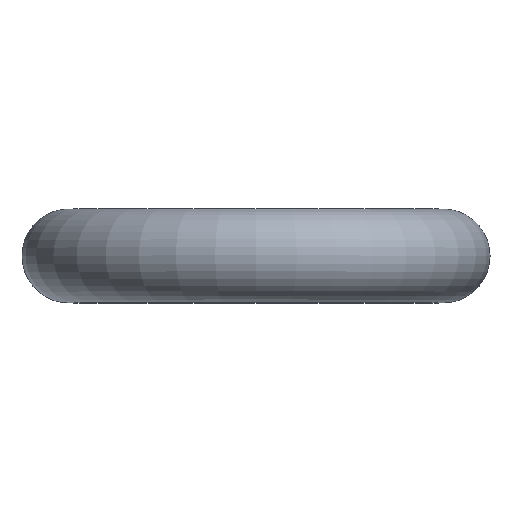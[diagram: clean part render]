
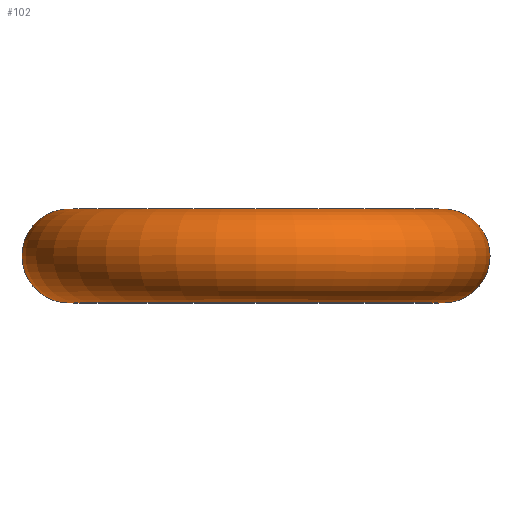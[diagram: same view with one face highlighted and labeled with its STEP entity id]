
A CAD part, top view. The second image highlights one B-rep face of the part: STEP entity #102.
In plain terms, the highlighted toroidal (fillet/blend) face has major radius 24 mm and minor radius 6 mm.
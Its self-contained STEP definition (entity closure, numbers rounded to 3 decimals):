
#24 = VERTEX_POINT('',#25);
#25 = CARTESIAN_POINT('',(-18.,0.,528.9));
#32 = CYLINDRICAL_SURFACE('',#33,6.);
#33 = AXIS2_PLACEMENT_3D('',#34,#35,#36);
#34 = CARTESIAN_POINT('',(-24.,0.,508.9));
#35 = DIRECTION('',(0.,0.,1.));
#36 = DIRECTION('',(1.,0.,-0.));
#50 = EDGE_CURVE('',#24,#24,#51,.T.);
#51 = SURFACE_CURVE('',#52,(#57,#64),.PCURVE_S1.);
#52 = CIRCLE('',#53,6.);
#53 = AXIS2_PLACEMENT_3D('',#54,#55,#56);
#54 = CARTESIAN_POINT('',(-24.,0.,528.9));
#55 = DIRECTION('',(0.,0.,1.));
#56 = DIRECTION('',(1.,0.,-0.));
#57 = PCURVE('',#32,#58);
#58 = DEFINITIONAL_REPRESENTATION('',(#59),#63);
#59 = LINE('',#60,#61);
#60 = CARTESIAN_POINT('',(0.,20.));
#61 = VECTOR('',#62,1.);
#62 = DIRECTION('',(1.,0.));
#63 = ( GEOMETRIC_REPRESENTATION_CONTEXT(2) 
PARAMETRIC_REPRESENTATION_CONTEXT() REPRESENTATION_CONTEXT('2D SPACE',''
  ) );
#64 = PCURVE('',#65,#70);
#65 = TOROIDAL_SURFACE('',#66,24.,6.);
#66 = AXIS2_PLACEMENT_3D('',#67,#68,#69);
#67 = CARTESIAN_POINT('',(0.,0.,528.9));
#68 = DIRECTION('',(0.,1.,-0.));
#69 = DIRECTION('',(-1.,0.,0.));
#70 = DEFINITIONAL_REPRESENTATION('',(#71),#74);
#71 = B_SPLINE_CURVE_WITH_KNOTS('',1,(#72,#73),.UNSPECIFIED.,.F.,.F.,(2,
    2),(0.,6.283),.PIECEWISE_BEZIER_KNOTS.);
#72 = CARTESIAN_POINT('',(0.,9.425));
#73 = CARTESIAN_POINT('',(0.,3.142));
#74 = ( GEOMETRIC_REPRESENTATION_CONTEXT(2) 
PARAMETRIC_REPRESENTATION_CONTEXT() REPRESENTATION_CONTEXT('2D SPACE',''
  ) );
#102 = ADVANCED_FACE('',(#103),#65,.T.);
#103 = FACE_BOUND('',#104,.T.);
#104 = EDGE_LOOP('',(#105,#128,#154,#155));
#105 = ORIENTED_EDGE('',*,*,#106,.T.);
#106 = EDGE_CURVE('',#24,#107,#109,.T.);
#107 = VERTEX_POINT('',#108);
#108 = CARTESIAN_POINT('',(18.,0.,528.9));
#109 = SEAM_CURVE('',#110,(#115,#121),.PCURVE_S1.);
#110 = CIRCLE('',#111,18.);
#111 = AXIS2_PLACEMENT_3D('',#112,#113,#114);
#112 = CARTESIAN_POINT('',(0.,0.,528.9)
  );
#113 = DIRECTION('',(0.,1.,-0.));
#114 = DIRECTION('',(-1.,0.,0.));
#115 = PCURVE('',#65,#116);
#116 = DEFINITIONAL_REPRESENTATION('',(#117),#120);
#117 = B_SPLINE_CURVE_WITH_KNOTS('',1,(#118,#119),.UNSPECIFIED.,.F.,.F.,
  (2,2),(0.,3.142),.PIECEWISE_BEZIER_KNOTS.);
#118 = CARTESIAN_POINT('',(0.,3.142));
#119 = CARTESIAN_POINT('',(3.142,3.142));
#120 = ( GEOMETRIC_REPRESENTATION_CONTEXT(2) 
PARAMETRIC_REPRESENTATION_CONTEXT() REPRESENTATION_CONTEXT('2D SPACE',''
  ) );
#121 = PCURVE('',#65,#122);
#122 = DEFINITIONAL_REPRESENTATION('',(#123),#127);
#123 = LINE('',#124,#125);
#124 = CARTESIAN_POINT('',(0.,9.425));
#125 = VECTOR('',#126,1.);
#126 = DIRECTION('',(1.,0.));
#127 = ( GEOMETRIC_REPRESENTATION_CONTEXT(2) 
PARAMETRIC_REPRESENTATION_CONTEXT() REPRESENTATION_CONTEXT('2D SPACE',''
  ) );
#128 = ORIENTED_EDGE('',*,*,#129,.T.);
#129 = EDGE_CURVE('',#107,#107,#130,.T.);
#130 = SURFACE_CURVE('',#131,(#136,#143),.PCURVE_S1.);
#131 = CIRCLE('',#132,6.);
#132 = AXIS2_PLACEMENT_3D('',#133,#134,#135);
#133 = CARTESIAN_POINT('',(24.,0.,528.9));
#134 = DIRECTION('',(0.,0.,1.));
#135 = DIRECTION('',(1.,0.,0.));
#136 = PCURVE('',#65,#137);
#137 = DEFINITIONAL_REPRESENTATION('',(#138),#142);
#138 = LINE('',#139,#140);
#139 = CARTESIAN_POINT('',(3.142,0.));
#140 = VECTOR('',#141,1.);
#141 = DIRECTION('',(0.,1.));
#142 = ( GEOMETRIC_REPRESENTATION_CONTEXT(2) 
PARAMETRIC_REPRESENTATION_CONTEXT() REPRESENTATION_CONTEXT('2D SPACE',''
  ) );
#143 = PCURVE('',#144,#149);
#144 = CYLINDRICAL_SURFACE('',#145,6.);
#145 = AXIS2_PLACEMENT_3D('',#146,#147,#148);
#146 = CARTESIAN_POINT('',(24.,0.,528.9));
#147 = DIRECTION('',(0.,0.,-1.));
#148 = DIRECTION('',(-1.,0.,0.));
#149 = DEFINITIONAL_REPRESENTATION('',(#150),#153);
#150 = B_SPLINE_CURVE_WITH_KNOTS('',1,(#151,#152),.UNSPECIFIED.,.F.,.F.,
  (2,2),(3.142,9.425),.PIECEWISE_BEZIER_KNOTS.);
#151 = CARTESIAN_POINT('',(6.283,0.));
#152 = CARTESIAN_POINT('',(0.,0.));
#153 = ( GEOMETRIC_REPRESENTATION_CONTEXT(2) 
PARAMETRIC_REPRESENTATION_CONTEXT() REPRESENTATION_CONTEXT('2D SPACE',''
  ) );
#154 = ORIENTED_EDGE('',*,*,#106,.F.);
#155 = ORIENTED_EDGE('',*,*,#50,.T.);
